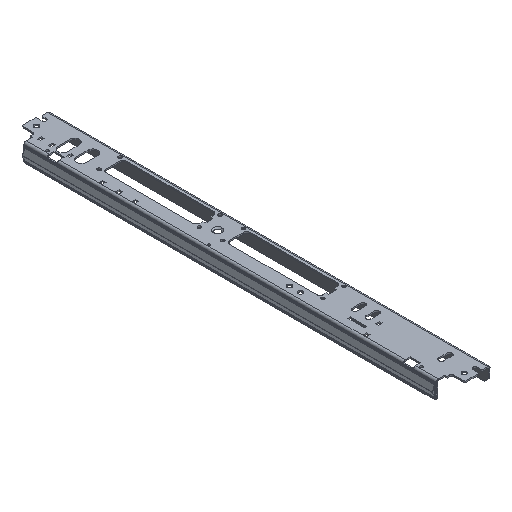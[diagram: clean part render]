
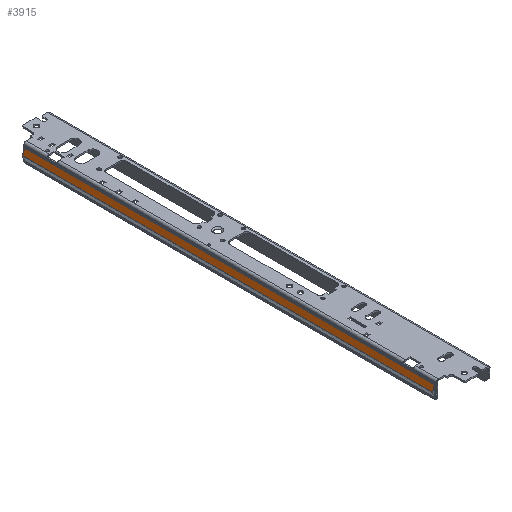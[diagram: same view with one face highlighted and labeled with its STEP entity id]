
A CAD part, isometric view. The second image highlights one B-rep face of the part: STEP entity #3915.
In plain terms, the highlighted planar face has unit normal (-0.91, 0, 0.415).
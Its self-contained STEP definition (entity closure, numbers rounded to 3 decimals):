
#65 = AXIS2_PLACEMENT_3D ( 'NONE', #656, #4843, #1192 ) ;
#241 = CARTESIAN_POINT ( 'NONE',  ( -16.752, 149.5, -6.921 ) ) ;
#597 = DIRECTION ( 'NONE',  ( 0.415, 0., 0.91 ) ) ;
#656 = CARTESIAN_POINT ( 'NONE',  ( -14.975, 149.5, -3.025 ) ) ;
#693 = CARTESIAN_POINT ( 'NONE',  ( -14.998, 149.5, -3.075 ) ) ;
#849 = VECTOR ( 'NONE', #597, 1000. ) ;
#1192 = DIRECTION ( 'NONE',  ( -0.415, 0., -0.91 ) ) ;
#1652 = FACE_OUTER_BOUND ( 'NONE', #5887, .T. ) ;
#1742 = VECTOR ( 'NONE', #3811, 1000. ) ;
#1744 = VERTEX_POINT ( 'NONE', #241 ) ;
#1834 = DIRECTION ( 'NONE',  ( 0., -1., 0. ) ) ;
#1921 = VECTOR ( 'NONE', #1834, 1000. ) ;
#2412 = ORIENTED_EDGE ( 'NONE', *, *, #6745, .T. ) ;
#2498 = CARTESIAN_POINT ( 'NONE',  ( -14.998, 149.5, -3.075 ) ) ;
#2744 = PLANE ( 'NONE',  #65 ) ;
#2842 = VERTEX_POINT ( 'NONE', #693 ) ;
#2990 = CARTESIAN_POINT ( 'NONE',  ( -14.998, -149.5, -3.075 ) ) ;
#3221 = CARTESIAN_POINT ( 'NONE',  ( -16.752, -149.5, -6.921 ) ) ;
#3448 = VERTEX_POINT ( 'NONE', #3221 ) ;
#3458 = ORIENTED_EDGE ( 'NONE', *, *, #6924, .F. ) ;
#3811 = DIRECTION ( 'NONE',  ( 0., 1., 0. ) ) ;
#3895 = EDGE_CURVE ( 'NONE', #1744, #2842, #4416, .T. ) ;
#3915 = ADVANCED_FACE ( 'NONE', ( #1652 ), #2744, .F. ) ;
#4416 = LINE ( 'NONE', #6054, #849 ) ;
#4591 = LINE ( 'NONE', #2498, #1921 ) ;
#4671 = ORIENTED_EDGE ( 'NONE', *, *, #3895, .F. ) ;
#4843 = DIRECTION ( 'NONE',  ( 0.91, 0., -0.415 ) ) ;
#4887 = LINE ( 'NONE', #5455, #1742 ) ;
#5080 = ORIENTED_EDGE ( 'NONE', *, *, #5832, .F. ) ;
#5275 = LINE ( 'NONE', #5806, #6580 ) ;
#5455 = CARTESIAN_POINT ( 'NONE',  ( -16.752, 149.5, -6.921 ) ) ;
#5731 = DIRECTION ( 'NONE',  ( 0.415, 0., 0.91 ) ) ;
#5806 = CARTESIAN_POINT ( 'NONE',  ( -16.752, -149.5, -6.921 ) ) ;
#5832 = EDGE_CURVE ( 'NONE', #2842, #5958, #4591, .T. ) ;
#5887 = EDGE_LOOP ( 'NONE', ( #5080, #4671, #3458, #2412 ) ) ;
#5958 = VERTEX_POINT ( 'NONE', #2990 ) ;
#6054 = CARTESIAN_POINT ( 'NONE',  ( -16.752, 149.5, -6.921 ) ) ;
#6580 = VECTOR ( 'NONE', #5731, 1000. ) ;
#6745 = EDGE_CURVE ( 'NONE', #3448, #5958, #5275, .T. ) ;
#6924 = EDGE_CURVE ( 'NONE', #3448, #1744, #4887, .T. ) ;
